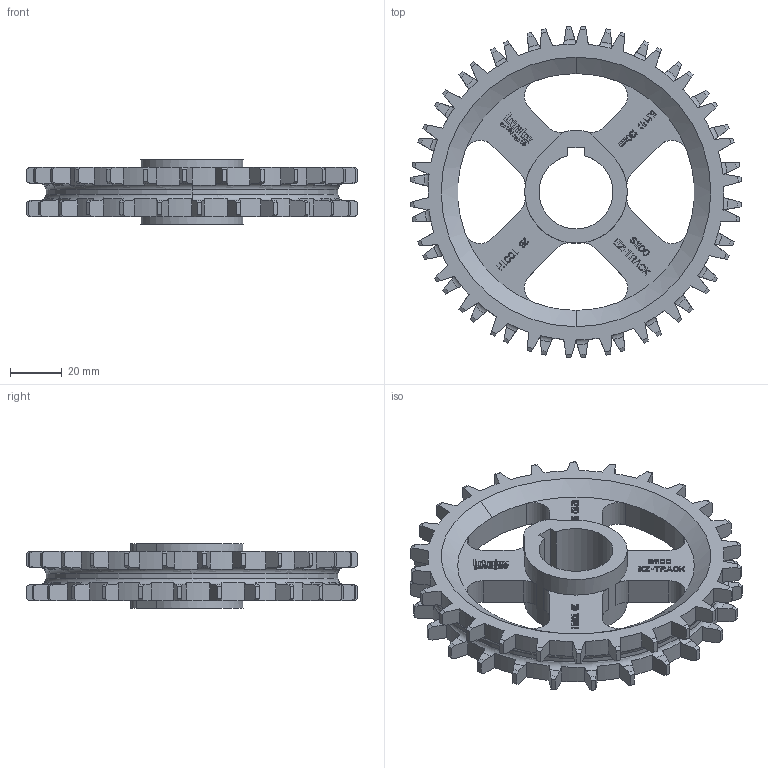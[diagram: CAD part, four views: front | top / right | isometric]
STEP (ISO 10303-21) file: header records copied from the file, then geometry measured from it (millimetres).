
FILE_DESCRIPTION((''),'2;1');
FILE_NAME('S1100_EZ_TRACK_CLEAN_51X1_PILOT','2008-12-12T',('jmumphre'),(''),'PRO/ENGINEER BY PARAMETRIC TECHNOLOGY CORPORATION, 2008150','PRO/ENGINEER BY PARAMETRIC TECHNOLOGY CORPORATION, 2008150','');
FILE_SCHEMA(('CONFIG_CONTROL_DESIGN'));
Length unit declared in the file: inch
Products named in the file (1): S1100_EZ_TRACK_CLEAN_51X1_PILOT
Bounding box: 127.95 x 127.99 x 24.89 mm (x, y, z)
Volume: 107350.7 mm3; surface area: 35372.5 mm2
Topology: 1 solids, 1 shells, 1459 faces, 4189 edges, 2786 vertices
Faces by surface type: plane 1232, cylinder 167, cone 56, torus 4
Entity records: 47965 total; most frequent: CARTESIAN_POINT 9714, ORIENTED_EDGE 8378, DIRECTION 7313, EDGE_CURVE 4189, VECTOR 3455, LINE 3455, VERTEX_POINT 2786, AXIS2_PLACEMENT_3D 1929
